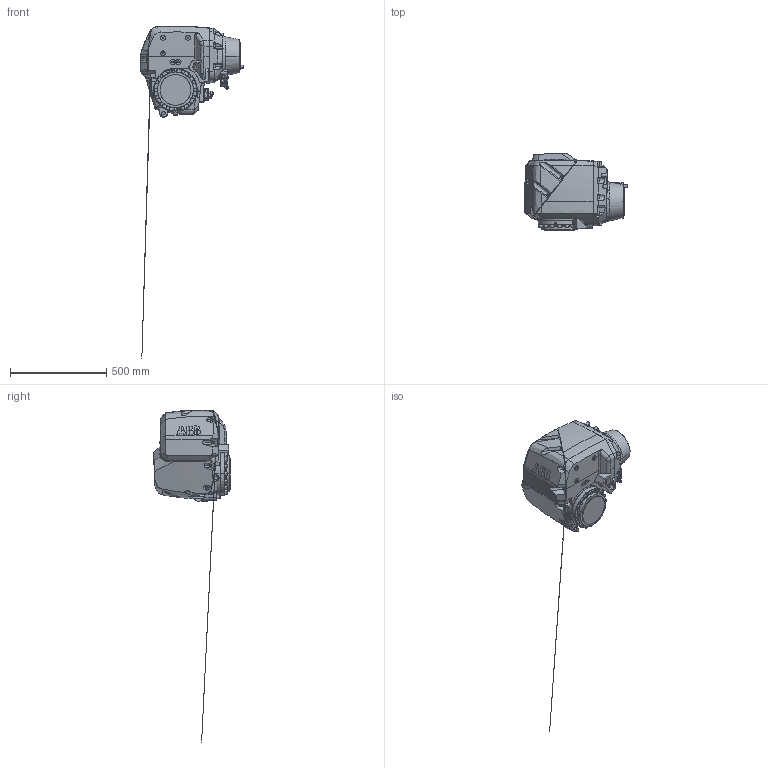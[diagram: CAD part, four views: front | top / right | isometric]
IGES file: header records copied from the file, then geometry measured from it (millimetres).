
Start section: SolidWorks IGES file using analytic representation for surfaces
Global section: file name: C:\Data\SAP_DOC\_2016-Q4_Lättmodeller RobCal\CAD Model_IRB4600_Rev04\IRB4600_45kg-205_IRC5_rev04\IRB4600_45kg-205_IRC5_rev04_IRC5_IGES_j\IRB4600_45kg-205_LINK3_CAD_rev04.IGS; native system: SolidWorks 2014; preprocessor: SolidWorks 2014; author: SEMAAXM; date: 161206.113141; units: millimetre
Bounding box: 533.59 x 398.62 x 1726.97 mm (x, y, z)
Surface area: 1002875.1 mm2 (no closed solid volume)
Topology: 0 solids, 0 shells, 1073 faces, 16309 edges, 16267 vertices
Faces by surface type: bspline 667, revolution 406
